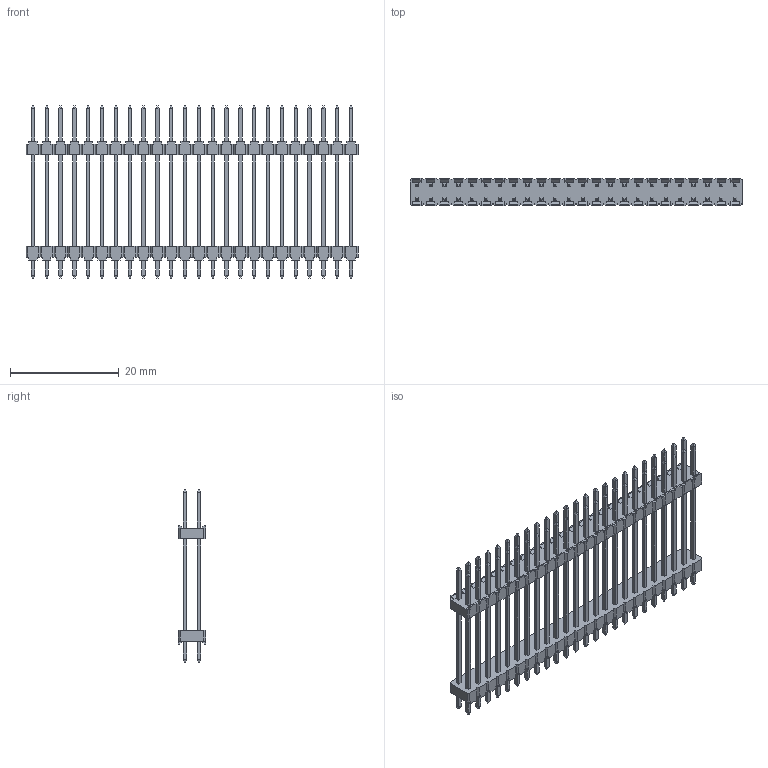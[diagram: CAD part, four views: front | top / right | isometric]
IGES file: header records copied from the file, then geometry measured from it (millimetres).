
Global section: file name: N:\GOLF_VI_2_54mm_UGII\9614XX-X04XX04-XX (TS-2185)\961448-8041404-XX.igs; native system: NX V3.0; preprocessor: UGS NX IGES V4.0; date: 20070618.113937; units: millimetre
Bounding box: 60.96 x 5 x 31.6 mm (x, y, z)
Surface area: 5181 mm2 (no closed solid volume)
Topology: 0 solids, 0 shells, 1836 faces, 9649 edges, 9649 vertices
Faces by surface type: bspline 1836
